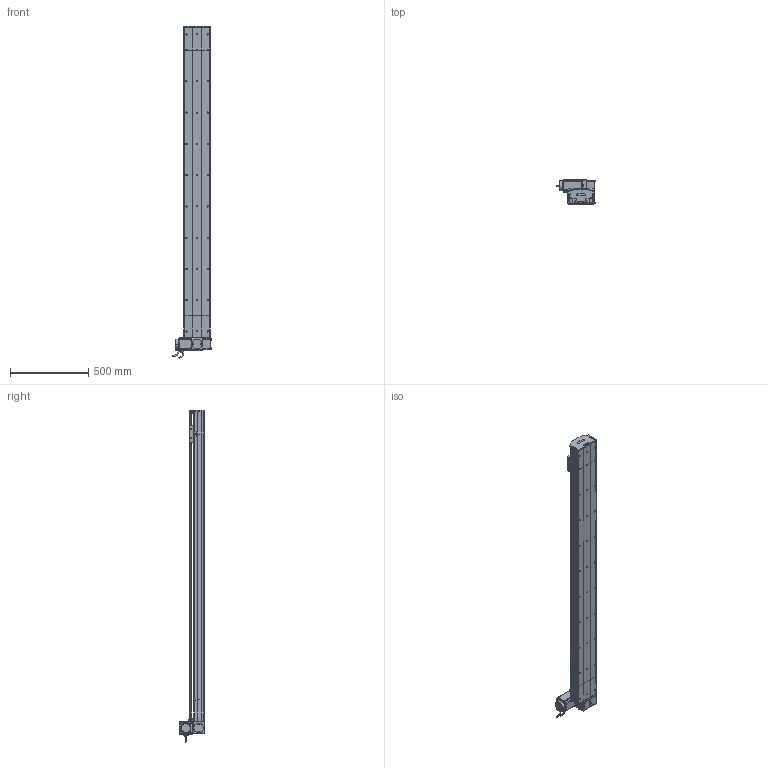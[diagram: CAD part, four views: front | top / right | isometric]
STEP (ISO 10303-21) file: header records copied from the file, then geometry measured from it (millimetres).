
FILE_DESCRIPTION (( 'STEP AP214' ), '1' );
FILE_NAME ('D17 TBN LT S1700.STEP', '2010-06-30T11:04:16', ( 'Christophe Gaillard' ), ( 'SGA' ), 'SwSTEP 2.0', 'SolidWorks 2010', '' );
FILE_SCHEMA (( 'AUTOMOTIVE_DESIGN' ));
Length unit declared in the file: millimetre
Products named in the file (40): vis M5 L70_Default; guide D17; Chariot D17 TBN; chariot D17 TBN; vis M5 L25_Default; Couroie tail D17B_Default; poulie tail_Default; plaque de  bout tail D17B_Default; vis M5 L12_Default; vis M5 L8 90°_Default; couvercle D17B_Default; Rail D17B; tete d''axe poulie D17B; corp tail D17B+100_Default; Tail D17B+100_Default; Vis M5 L16-2_Default; vis M5 L16_Default; Plaque racord D17_Default; D17 TBN LT S1700; corp D17B 1700_Default; Couroie+ rail D17 Course 1700 ; course 1700 D17B_Default; corpl head D17 _Default; Head LT D17B_Default; couvercle D17B course L1700_Default; Arbre+rail head D17B; plaque de  bout head D17B LT_Default; couvercle D17B head_Default; poulie head_Default; vis M5 L5_Default; cache D17_Default; Renvoi LT_Default; couroie head D17_Default; cache arbre D17_Default; corps 90BLDC125A-640; avant 90BLDC125A-640; Moteur motionking 90BLDC125A-640; Conecteur_Default; Conecteur2_Default; codeur 90BLDC125-640
Assembly tree (66 placements, depth 4):
  D17 TBN LT S1700
    chariot D17 TBN
      guide D17  x2
      Chariot D17 TBN
    Tail D17B+100_Default
      Couroie tail D17B_Default
      couvercle D17B_Default
      vis M5 L12_Default  x4
      plaque de  bout tail D17B_Default
      vis M5 L8 90°_Default  x2
      tete d''axe poulie D17B
      poulie tail_Default
      vis M5 L25_Default  x2
      Rail D17B
      corp tail D17B+100_Default
    Head LT D17B_Default
      couvercle D17B head_Default
      plaque de  bout head D17B LT_Default
      cache arbre D17_Default
      vis M5 L25_Default  x2
      cache D17_Default  x2
      vis M5 L16_Default  x2
      couroie head D17_Default
      vis M5 L12_Default  x8
      corpl head D17 _Default
      Plaque racord D17_Default
      vis M5 L5_Default  x4
      vis M5 L70_Default  x4
      Vis M5 L16-2_Default  x4
      Arbre+rail head D17B
      Moteur motionking 90BLDC125A-640
        codeur 90BLDC125-640
        avant 90BLDC125A-640
        Conecteur_Default
        corps 90BLDC125A-640
        Conecteur2_Default
      Renvoi LT_Default
      poulie head_Default
    course 1700 D17B_Default
      Couroie+ rail D17 Course 1700 
      corp D17B 1700_Default
      couvercle D17B course L1700_Default
Bounding box: 245.2 x 166.15 x 2123.95 mm (x, y, z)
Volume: 12624302.2 mm3; surface area: 3617913.9 mm2
Topology: 89 solids, 89 shells, 2583 faces, 6579 edges, 4242 vertices
Faces by surface type: plane 1537, cylinder 749, bspline 136, cone 80, torus 77, sphere 4
Entity records: 83589 total; most frequent: CARTESIAN_POINT 24937, ORIENTED_EDGE 10330, DIRECTION 9758, EDGE_CURVE 5165, VECTOR 3444, LINE 3444, VERTEX_POINT 3386, AXIS2_PLACEMENT_3D 3157
